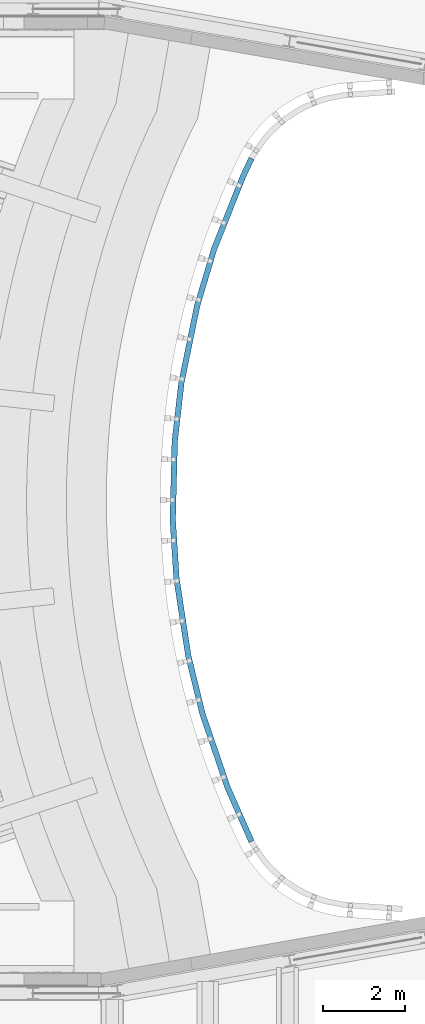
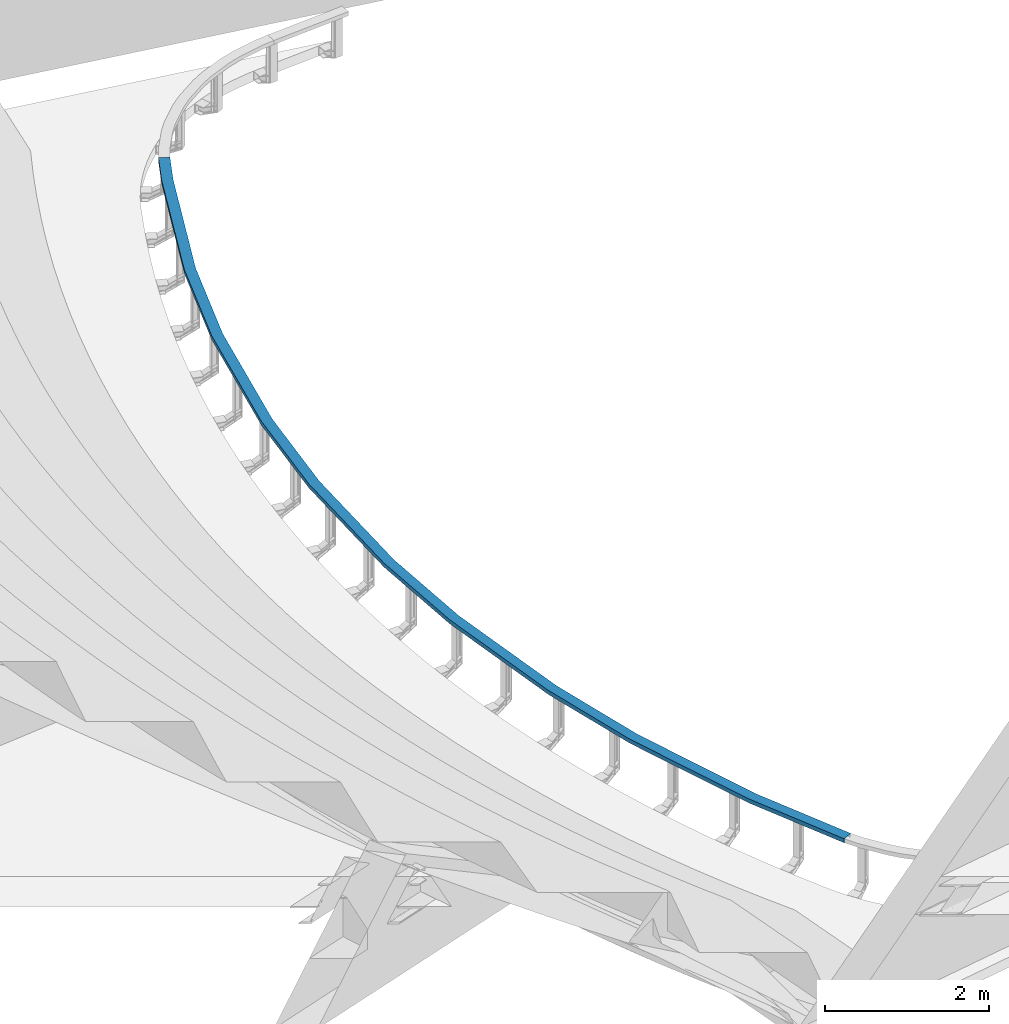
# One storey, part 56 of 68: 1 beam.
"""IFC2X3 building model written with IfcOpenShell, lengths in millimetres."""

from ifc_helpers import new_model, entity, si_unit, converted_unit, derived_unit, direction, frame, origin, place, context, subcontext, project, spatial, faceted_brep, material, type_object, element, save


model = new_model("IFC2X3")

# Units and contexts
model_context = context("Model", 3, precision=0.01, world=origin(), true_north=direction((6.12303176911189e-17, 1.0)))
body_context = subcontext(model_context, "Body", "Model", "MODEL_VIEW")
ifc_project = project(units=[si_unit("LENGTHUNIT", "METRE", prefix="MILLI"), si_unit("AREAUNIT", "SQUARE_METRE", prefix="MILLI"), si_unit("VOLUMEUNIT", "CUBIC_METRE"), converted_unit("PLANEANGLEUNIT", "DEGREE", entity("IfcRatioMeasure", 0.0174532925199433), si_unit("PLANEANGLEUNIT", "RADIAN"), dimensions=[0, 0, 0, 0, 0, 0, 0]), si_unit("MASSUNIT", "GRAM", prefix="KILO"), derived_unit("MASSDENSITYUNIT", [(si_unit("MASSUNIT", "GRAM", prefix="KILO"), 1), (si_unit("LENGTHUNIT", "METRE"), -3)]), derived_unit("MOMENTOFINERTIAUNIT", [(si_unit("LENGTHUNIT", "METRE"), 4)]), si_unit("TIMEUNIT", "SECOND"), si_unit("FREQUENCYUNIT", "HERTZ"), si_unit("THERMODYNAMICTEMPERATUREUNIT", "DEGREE_CELSIUS"), derived_unit("THERMALTRANSMITTANCEUNIT", [(si_unit("MASSUNIT", "GRAM", prefix="KILO"), 1), (si_unit("THERMODYNAMICTEMPERATUREUNIT", "KELVIN"), -1), (si_unit("TIMEUNIT", "SECOND"), -3)]), derived_unit("VOLUMETRICFLOWRATEUNIT", [(si_unit("LENGTHUNIT", "METRE"), 3), (si_unit("TIMEUNIT", "SECOND"), -1)]), si_unit("ELECTRICCURRENTUNIT", "AMPERE"), si_unit("ELECTRICVOLTAGEUNIT", "VOLT"), si_unit("POWERUNIT", "WATT"), si_unit("FORCEUNIT", "NEWTON", prefix="KILO"), si_unit("ILLUMINANCEUNIT", "LUX"), si_unit("LUMINOUSFLUXUNIT", "LUMEN"), si_unit("LUMINOUSINTENSITYUNIT", "CANDELA"), derived_unit("USERDEFINED", [(si_unit("MASSUNIT", "GRAM", prefix="KILO"), -1), (si_unit("LENGTHUNIT", "METRE"), -2), (si_unit("TIMEUNIT", "SECOND"), 3), (si_unit("LUMINOUSFLUXUNIT", "LUMEN"), 1)]), derived_unit("LINEARVELOCITYUNIT", [(si_unit("LENGTHUNIT", "METRE"), 1), (si_unit("TIMEUNIT", "SECOND"), -1)]), si_unit("PRESSUREUNIT", "PASCAL"), derived_unit("USERDEFINED", [(si_unit("LENGTHUNIT", "METRE"), -2), (si_unit("MASSUNIT", "GRAM", prefix="KILO"), 1), (si_unit("TIMEUNIT", "SECOND"), -2)]), derived_unit("LINEARFORCEUNIT", [(si_unit("MASSUNIT", "GRAM", prefix="KILO"), 1), (si_unit("LENGTHUNIT", "METRE"), 1), (si_unit("TIMEUNIT", "SECOND"), -2), (si_unit("LENGTHUNIT", "METRE"), -1)]), derived_unit("PLANARFORCEUNIT", [(si_unit("MASSUNIT", "GRAM", prefix="KILO"), 1), (si_unit("LENGTHUNIT", "METRE"), 1), (si_unit("TIMEUNIT", "SECOND"), -2), (si_unit("LENGTHUNIT", "METRE"), -2)])], contexts=[model_context])

# Site, building, storey
site_placement = place(None, origin())
site = spatial("IfcSite", under=ifc_project, at=site_placement, Name="Theater aan de Parade", CompositionType="ELEMENT")
building_placement = place(site_placement, origin())
building = spatial("IfcBuilding", under=site, at=building_placement, Name="Theater aan de Parade", CompositionType="ELEMENT")
storey_placement = place(building_placement, frame((0.0, 0.0, 8750.0)))
storey = spatial("IfcBuildingStorey", under=building, at=storey_placement, Name="02 tweede verdieping", CompositionType="ELEMENT", Elevation=8750.0)

# Beam
ifc_material = material(Name="00_PBT_MAT_staal_S355")
beam_type = type_object("IfcBeamType", Name="28_PBT_SF_staal_UNP-profiel:S355_UNP140", PredefinedType="NOTDEFINED")
beam_placement = place(storey_placement, frame((72260.0, 32450.0, 0.0)))
element("IfcBeam", 1, at=beam_placement, inside=storey, type_object=beam_type, material=ifc_material, Name="28_PBT_SF_staal_UNP-profiel:S355_UNP140", ObjectType="28_PBT_SF_staal_UNP-profiel:S355_UNP140", context=body_context, shape_type="Brep", body=[
    faceted_brep([(-17642.9592378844, -7024.6771691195, -1398.0), (-17642.9592378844, -7024.6771691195, -1458.0), (-17060.47606558, -8340.27915694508, -1458.0), (-17060.47606558, -8340.27915694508, -1398.0), (-17640.186881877, -7023.57333468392, -1458.0), (-17057.7952390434, -8338.96859318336, -1458.0), (-17637.0358302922, -7022.31871975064, -1456.67380120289), (-17054.7482195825, -8337.47901031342, -1456.67380120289), (-17635.5563470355, -7021.72965234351, -1453.39872611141), (-17053.3175815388, -8336.77962064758, -1453.39872611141), (-17632.6430807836, -7020.56971343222, -1414.20254777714), (-17050.5004969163, -8335.40244500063, -1414.20254777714), (-17629.6841142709, -7019.39157861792, -1407.65239759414), (-17047.6392208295, -8334.00366566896, -1407.65239759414), (-17623.3820111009, -7016.88234875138, -1405.0), (-17041.5451819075, -8331.02449992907, -1405.0), (-17532.4672549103, -6980.68395348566, -1405.0), (-16953.6319808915, -8288.04676383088, -1405.0), (-17526.1651517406, -6978.1747236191, -1407.65239759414), (-16947.5379419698, -8285.06759809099, -1407.65239759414), (-17523.2061852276, -6976.99658880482, -1414.20254777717), (-16944.6766658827, -8283.66881875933, -1414.20254777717), (-17520.2929189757, -6975.83664989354, -1453.39872611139), (-16941.8595812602, -8282.29164311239, -1453.39872611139), (-17518.8134357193, -6975.24758248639, -1456.67380120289), (-16940.4289432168, -8281.59225344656, -1456.67380120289), (-17515.6623841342, -6973.99296755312, -1458.0), (-16937.3819237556, -8280.1026705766, -1458.0), (-17512.8900281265, -6972.88913311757, -1458.0), (-16934.7010972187, -8278.79210681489, -1458.0), (-17512.8900281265, -6972.88913311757, -1398.0), (-16934.7010972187, -8278.79210681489, -1398.0), (-18261.566600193, -5209.15399145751, -1398.0), (-18261.566600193, -5209.15399145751, -1458.0), (-18258.6970382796, -5208.33544230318, -1458.0), (-18255.4355027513, -5207.40508177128, -1456.67380120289), (-18253.9041450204, -5206.96825844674, -1453.39872611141), (-18250.8887321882, -5206.10810498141, -1414.20254777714), (-18247.826016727, -5205.23445833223, -1407.65239759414), (-18241.3029456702, -5203.37373726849, -1405.0), (-18147.2004851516, -5176.53079336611, -1405.0), (-18140.6774140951, -5174.67007230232, -1407.65239759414), (-18137.6146986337, -5173.79642565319, -1414.20254777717), (-18134.5992858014, -5172.93627218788, -1453.39872611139), (-18133.0679280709, -5172.49944886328, -1456.67380120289), (-18129.8063925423, -5171.56908833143, -1458.0), (-18126.9368306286, -5170.75053917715, -1458.0), (-18126.9368306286, -5170.75053917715, -1398.0), (-18603.5421454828, -3811.60329011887, -1398.0), (-18603.5421454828, -3811.60329011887, -1458.0), (-18600.6188466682, -3811.00434743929, -1458.0), (-18597.296233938, -3810.32359097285, -1456.67380120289), (-18595.7361992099, -3810.00396186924, -1453.39872611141), (-18592.6643181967, -3809.37457679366, -1414.20254777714), (-18589.5442487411, -3808.7353185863, -1407.65239759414), (-18582.8990232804, -3807.3738056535, -1405.0), (-18487.0343513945, -3787.73248703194, -1405.0), (-18480.3891259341, -3786.37097409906, -1407.65239759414), (-18477.2690564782, -3785.73171589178, -1414.20254777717), (-18474.1971754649, -3785.1023308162, -1453.39872611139), (-18472.6371407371, -3784.78270171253, -1456.67380120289), (-18469.3145280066, -3784.10194524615, -1458.0), (-18466.3912291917, -3783.50300256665, -1458.0), (-18466.3912291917, -3783.50300256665, -1398.0), (-18893.1385077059, -1915.57232404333, -1398.0), (-18893.1385077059, -1915.57232404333, -1458.0), (-18890.1697026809, -1915.27131737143, -1458.0), (-18886.7953677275, -1914.92919408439, -1456.67380120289), (-18885.2110483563, -1914.76856019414, -1453.39872611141), (-18882.0913481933, -1914.45225428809, -1414.20254777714), (-18878.9227094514, -1914.13098650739, -1407.65239759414), (-18872.1740395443, -1913.4467399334, -1405.0), (-18774.8170679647, -1903.57573198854, -1405.0), (-18768.0683980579, -1902.89148541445, -1407.65239759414), (-18764.8997593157, -1902.57021763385, -1414.20254777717), (-18761.7800591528, -1902.2539117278, -1453.39872611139), (-18760.1957397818, -1902.09327783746, -1456.67380120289), (-18756.8214048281, -1901.7511545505, -1458.0), (-18753.8525998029, -1901.45014787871, -1458.0), (-18753.8525998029, -1901.45014787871, -1398.0), (-18983.9413254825, -479.657951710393, -1398.0), (-18983.9413254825, -479.657951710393, -1458.0), (-18980.9582520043, -479.582579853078, -1458.0), (-18977.5676995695, -479.496912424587, -1456.67380120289), (-18975.9757657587, -479.45668981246, -1453.39872611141), (-18972.8410719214, -479.377487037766, -1414.20254777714), (-18969.6572043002, -479.297041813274, -1407.65239759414), (-18962.8760994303, -479.125706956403, -1405.0), (-18865.0512179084, -476.654013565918, -1405.0), (-18858.2701130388, -476.482678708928, -1407.65239759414), (-18855.0862454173, -476.40223348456, -1414.20254777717), (-18851.9515515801, -476.323030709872, -1453.39872611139), (-18850.3596177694, -476.282808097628, -1456.67380120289), (-18846.9690653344, -476.197140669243, -1458.0), (-18843.985991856, -476.121768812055, -1458.0), (-18843.985991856, -476.121768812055, -1398.0), (-18935.4951227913, 1437.74978864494, -1398.0), (-18935.4951227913, 1437.74978864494, -1458.0), (-18932.5196619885, 1437.52386541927, -1458.0), (-18929.1377620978, 1437.26708175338, -1456.67380120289), (-18927.5498908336, 1437.14651656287, -1453.39872611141), (-18924.4231966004, 1436.90911036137, -1414.20254777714), (-18921.2474540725, 1436.66797998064, -1407.65239759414), (-18914.483654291, 1436.15441264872, -1405.0), (-18816.908417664, 1428.74564013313, -1405.0), (-18810.1446178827, 1428.23207280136, -1407.65239759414), (-18806.9688753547, 1427.99094242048, -1414.20254777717), (-18803.8421811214, 1427.75353621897, -1453.39872611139), (-18802.2543098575, 1427.63297102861, -1456.67380120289), (-18798.8724099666, 1427.37618736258, -1458.0), (-18795.8969491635, 1427.15026413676, -1458.0), (-18795.8969491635, 1427.15026413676, -1398.0), (-18772.2933696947, 2867.24635183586, -1398.0), (-18772.2933696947, 2867.24635183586, -1458.0), (-18769.3435538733, 2866.79580226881, -1458.0), (-18765.9908019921, 2866.28370897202, -1456.67380120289), (-18764.4166163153, 2866.04327068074, -1453.39872611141), (-18761.3168705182, 2865.56982107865, -1414.20254777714), (-18758.1684991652, 2865.08894449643, -1407.65239759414), (-18751.4629954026, 2864.06475790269, -1405.0), (-18654.7287428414, 2849.28974201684, -1405.0), (-18648.023239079, 2848.26555542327, -1407.65239759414), (-18644.8748677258, 2847.78467884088, -1414.20254777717), (-18641.7751219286, 2847.31122923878, -1453.39872611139), (-18640.2009362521, 2847.07079094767, -1456.67380120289), (-18636.8481843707, 2846.55869765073, -1458.0), (-18633.898368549, 2846.10814808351, -1458.0), (-18633.898368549, 2846.10814808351, -1398.0), (-18387.3154809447, 4746.233180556, -1398.0), (-18387.3154809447, 4746.233180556, -1458.0), (-18384.4261592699, 4745.4873732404, -1458.0), (-18381.1421648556, 4744.63969086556, -1456.67380120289), (-18379.6002622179, 4744.24168662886, -1453.39872611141), (-18376.5640852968, 4743.45797224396, -1414.20254777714), (-18373.4802800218, 4742.66196377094, -1407.65239759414), (-18366.9122911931, 4740.96659902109, -1405.0), (-18272.1618425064, 4716.50910146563, -1405.0), (-18265.5938536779, 4714.81373671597, -1407.65239759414), (-18262.5100484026, 4714.01772824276, -1414.20254777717), (-18259.4738714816, 4713.23401385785, -1453.39872611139), (-18257.9319688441, 4712.83600962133, -1456.67380120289), (-18254.6479744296, 4711.98832724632, -1458.0), (-18251.7586527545, 4711.24251993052, -1458.0), (-18251.7586527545, 4711.24251993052, -1398.0), (-17975.1988867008, 6124.73060497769, -1398.0), (-17975.1988867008, 6124.73060497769, -1458.0), (-17972.3743236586, 6123.76818515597, -1458.0), (-17969.1639337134, 6122.67430165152, -1456.67380120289), (-17967.6565898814, 6122.16070094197, -1453.39872611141), (-17964.6884630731, 6121.14936431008, -1414.20254777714), (-17961.6737754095, 6120.12216289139, -1407.65239759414), (-17955.2529955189, 6117.93439588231, -1405.0), (-17862.6261973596, 6086.37345521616, -1405.0), (-17856.2054174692, 6084.18568820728, -1407.65239759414), (-17853.1907298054, 6083.15848678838, -1414.20254777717), (-17850.2226029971, 6082.14715015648, -1453.39872611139), (-17848.7152591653, 6081.63354944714, -1456.67380120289), (-17845.5048692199, 6080.5396659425, -1458.0), (-17842.6803061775, 6079.57724612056, -1458.0), (-17842.6803061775, 6079.57724612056, -1398.0), (-17265.6955150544, 7906.6970589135, -1398.0), (-17265.6955150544, 7906.6970589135, -1458.0), (-17262.9824410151, 7905.45462680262, -1458.0), (-17259.8987691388, 7904.0424821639, -1456.67380120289), (-17258.4509220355, 7903.37945133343, -1453.39872611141), (-17255.5999508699, 7902.07387025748, -1414.20254777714), (-17252.7042566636, 7900.74780859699, -1407.65239759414), (-17246.5369129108, 7897.92351931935, -1405.0), (-17157.566209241, 7857.18004620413, -1405.0), (-17151.3988654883, 7854.35575692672, -1407.65239759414), (-17148.5031712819, 7853.02969526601, -1414.20254777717), (-17145.6522001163, 7851.72411419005, -1453.39872611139), (-17144.2043530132, 7851.0610833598, -1456.67380120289), (-17141.1206811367, 7849.64893872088, -1458.0), (-17138.4076070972, 7848.40650660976, -1458.0), (-17138.4076070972, 7848.40650660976, -1398.0), (-17060.4760655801, 8340.27915694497, -1398.0), (-17060.4760655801, 8340.27915694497, -1458.0), (-17057.7952390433, 8338.96859318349, -1458.0), (-17054.7482195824, 8337.47901031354, -1456.67380120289), (-17053.3175815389, 8336.77962064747, -1453.39872611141), (-17050.5004969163, 8335.40244500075, -1414.20254777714), (-17047.6392208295, 8334.00366566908, -1407.65239759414), (-17041.5451819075, 8331.02449992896, -1405.0), (-16953.6319808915, 8288.04676383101, -1405.0), (-16947.5379419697, 8285.06759809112, -1407.65239759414), (-16944.6766658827, 8283.66881875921, -1414.20254777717), (-16941.8595812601, 8282.29164311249, -1453.39872611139), (-16940.4289432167, 8281.59225344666, -1456.67380120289), (-16937.3819237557, 8280.10267057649, -1458.0), (-16934.7010972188, 8278.79210681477, -1458.0), (-16934.7010972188, 8278.79210681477, -1398.0)], [[[0, 1, 2, 3]], [[1, 4, 5, 2]], [[4, 6, 7, 5]], [[6, 8, 9, 7]], [[8, 10, 11, 9]], [[10, 12, 13, 11]], [[12, 14, 15, 13]], [[14, 16, 17, 15]], [[16, 18, 19, 17]], [[18, 20, 21, 19]], [[20, 22, 23, 21]], [[22, 24, 25, 23]], [[24, 26, 27, 25]], [[26, 28, 29, 27]], [[28, 30, 31, 29]], [[30, 0, 3, 31]], [[32, 33, 1, 0]], [[33, 34, 4, 1]], [[34, 35, 6, 4]], [[35, 36, 8, 6]], [[36, 37, 10, 8]], [[37, 38, 12, 10]], [[38, 39, 14, 12]], [[39, 40, 16, 14]], [[40, 41, 18, 16]], [[41, 42, 20, 18]], [[42, 43, 22, 20]], [[43, 44, 24, 22]], [[44, 45, 26, 24]], [[45, 46, 28, 26]], [[46, 47, 30, 28]], [[47, 32, 0, 30]], [[48, 49, 33, 32]], [[49, 50, 34, 33]], [[50, 51, 35, 34]], [[51, 52, 36, 35]], [[52, 53, 37, 36]], [[53, 54, 38, 37]], [[54, 55, 39, 38]], [[55, 56, 40, 39]], [[56, 57, 41, 40]], [[57, 58, 42, 41]], [[58, 59, 43, 42]], [[59, 60, 44, 43]], [[60, 61, 45, 44]], [[61, 62, 46, 45]], [[62, 63, 47, 46]], [[63, 48, 32, 47]], [[64, 65, 49, 48]], [[65, 66, 50, 49]], [[66, 67, 51, 50]], [[67, 68, 52, 51]], [[68, 69, 53, 52]], [[69, 70, 54, 53]], [[70, 71, 55, 54]], [[71, 72, 56, 55]], [[72, 73, 57, 56]], [[73, 74, 58, 57]], [[74, 75, 59, 58]], [[75, 76, 60, 59]], [[76, 77, 61, 60]], [[77, 78, 62, 61]], [[78, 79, 63, 62]], [[79, 64, 48, 63]], [[80, 81, 65, 64]], [[81, 82, 66, 65]], [[82, 83, 67, 66]], [[83, 84, 68, 67]], [[84, 85, 69, 68]], [[85, 86, 70, 69]], [[86, 87, 71, 70]], [[87, 88, 72, 71]], [[88, 89, 73, 72]], [[89, 90, 74, 73]], [[90, 91, 75, 74]], [[91, 92, 76, 75]], [[92, 93, 77, 76]], [[93, 94, 78, 77]], [[94, 95, 79, 78]], [[95, 80, 64, 79]], [[96, 97, 81, 80]], [[97, 98, 82, 81]], [[98, 99, 83, 82]], [[99, 100, 84, 83]], [[100, 101, 85, 84]], [[101, 102, 86, 85]], [[102, 103, 87, 86]], [[103, 104, 88, 87]], [[104, 105, 89, 88]], [[105, 106, 90, 89]], [[106, 107, 91, 90]], [[107, 108, 92, 91]], [[108, 109, 93, 92]], [[109, 110, 94, 93]], [[110, 111, 95, 94]], [[111, 96, 80, 95]], [[112, 113, 97, 96]], [[113, 114, 98, 97]], [[114, 115, 99, 98]], [[115, 116, 100, 99]], [[116, 117, 101, 100]], [[117, 118, 102, 101]], [[118, 119, 103, 102]], [[119, 120, 104, 103]], [[120, 121, 105, 104]], [[121, 122, 106, 105]], [[122, 123, 107, 106]], [[123, 124, 108, 107]], [[124, 125, 109, 108]], [[125, 126, 110, 109]], [[126, 127, 111, 110]], [[127, 112, 96, 111]], [[128, 129, 113, 112]], [[129, 130, 114, 113]], [[130, 131, 115, 114]], [[131, 132, 116, 115]], [[132, 133, 117, 116]], [[133, 134, 118, 117]], [[134, 135, 119, 118]], [[135, 136, 120, 119]], [[136, 137, 121, 120]], [[137, 138, 122, 121]], [[138, 139, 123, 122]], [[139, 140, 124, 123]], [[140, 141, 125, 124]], [[141, 142, 126, 125]], [[142, 143, 127, 126]], [[143, 128, 112, 127]], [[144, 145, 129, 128]], [[145, 146, 130, 129]], [[146, 147, 131, 130]], [[147, 148, 132, 131]], [[148, 149, 133, 132]], [[149, 150, 134, 133]], [[150, 151, 135, 134]], [[151, 152, 136, 135]], [[152, 153, 137, 136]], [[153, 154, 138, 137]], [[154, 155, 139, 138]], [[155, 156, 140, 139]], [[156, 157, 141, 140]], [[157, 158, 142, 141]], [[158, 159, 143, 142]], [[159, 144, 128, 143]], [[160, 161, 145, 144]], [[161, 162, 146, 145]], [[162, 163, 147, 146]], [[163, 164, 148, 147]], [[164, 165, 149, 148]], [[165, 166, 150, 149]], [[166, 167, 151, 150]], [[167, 168, 152, 151]], [[168, 169, 153, 152]], [[169, 170, 154, 153]], [[170, 171, 155, 154]], [[171, 172, 156, 155]], [[172, 173, 157, 156]], [[173, 174, 158, 157]], [[174, 175, 159, 158]], [[175, 160, 144, 159]], [[176, 177, 161, 160]], [[177, 178, 162, 161]], [[178, 179, 163, 162]], [[179, 180, 164, 163]], [[180, 181, 165, 164]], [[181, 182, 166, 165]], [[182, 183, 167, 166]], [[183, 184, 168, 167]], [[184, 185, 169, 168]], [[185, 186, 170, 169]], [[186, 187, 171, 170]], [[187, 188, 172, 171]], [[188, 189, 173, 172]], [[189, 190, 174, 173]], [[190, 191, 175, 174]], [[191, 176, 160, 175]], [[3, 2, 5, 7, 9, 11, 13, 15, 17, 19, 21, 23, 25, 27, 29, 31]], [[191, 190, 189, 188, 187, 186, 185, 184, 183, 182, 181, 180, 179, 178, 177, 176]]]),
])

save(model, "model.ifc")
